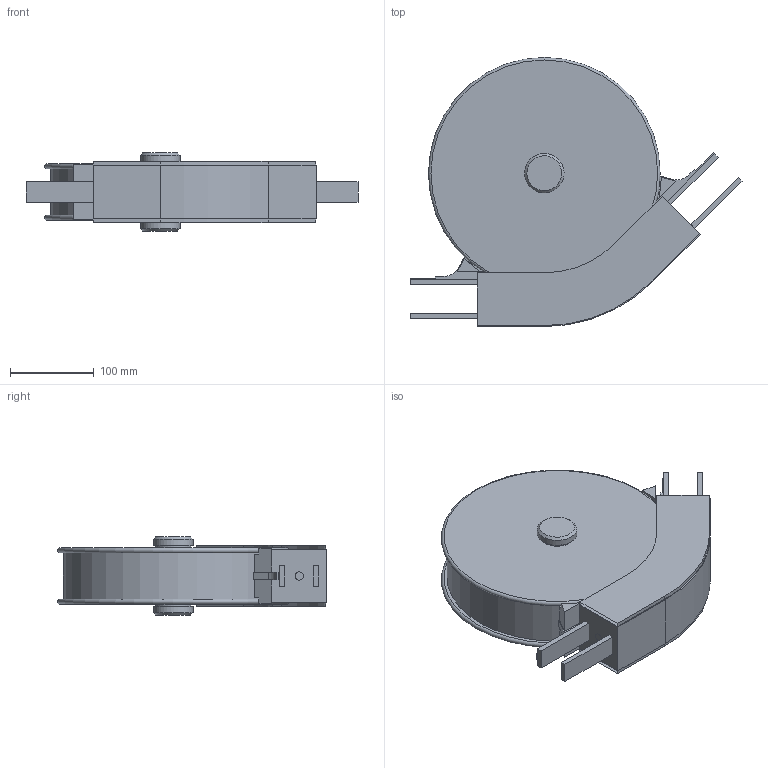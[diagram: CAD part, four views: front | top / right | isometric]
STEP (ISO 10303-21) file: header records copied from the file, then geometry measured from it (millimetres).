
FILE_DESCRIPTION(/* description */ ('Bogenrad 45°'),/* implementation_level */ '2;1');
FILE_NAME(/* name */ 'T:\vdz0\Step Daten Website\modulflex FL-System\Bogenräder\FLBH 45R150 A_43657.stp',/* time_stamp */ '2024-09-03T09:15:20+02:00',/* author */ ('lzb0'),/* organization */ ('modular automation GmbH'),/* preprocessor_version */ 'ST-DEVELOPER v18.1',/* originating_system */ 'Autodesk Inventor 2021',/* authorisation */ '');
FILE_SCHEMA (('AUTOMOTIVE_DESIGN { 1 0 10303 214 3 1 1 }'));
Length unit declared in the file: millimetre
Products named in the file (1): FLBH 45R150 A
Bounding box: 395.47 x 320.5 x 93 mm (x, y, z)
Volume: 5021011.9 mm3; surface area: 401387.5 mm2
Topology: 8 solids, 12 shells, 123 faces, 289 edges, 192 vertices
Faces by surface type: plane 104, cylinder 15, cone 2, torus 2
Full cylindrical faces by diameter (mm): 10 x2, 42 x2, 47 x2, 262 x1
Entity records: 3581 total; most frequent: CARTESIAN_POINT 612, DIRECTION 577, ORIENTED_EDGE 558, EDGE_CURVE 289, LINE 251, VECTOR 251, VERTEX_POINT 192, AXIS2_PLACEMENT_3D 163
